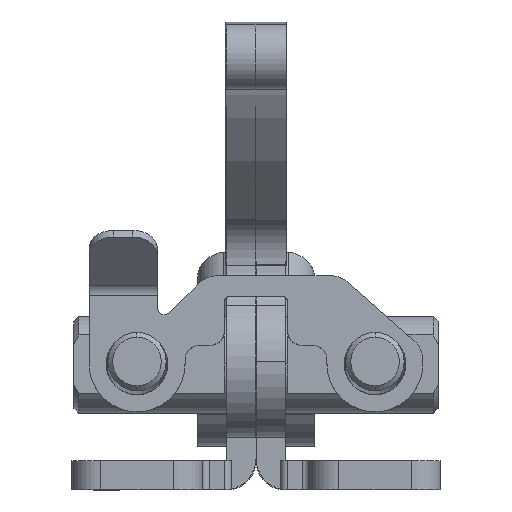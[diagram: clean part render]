
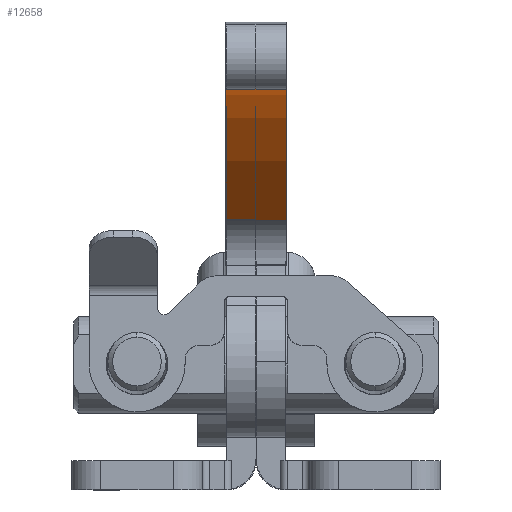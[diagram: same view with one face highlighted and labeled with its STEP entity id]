
A CAD part, left-side view. The second image highlights one B-rep face of the part: STEP entity #12658.
In plain terms, the highlighted cylindrical face has radius 194.8 mm (diameter 389.6 mm), a partial arc.
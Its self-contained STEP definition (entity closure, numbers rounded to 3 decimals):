
#310 = CIRCLE ( 'NONE', #12654, 194.8 ) ;
#1242 = DIRECTION ( 'NONE',  ( 1., 0., 0. ) ) ;
#2239 = CARTESIAN_POINT ( 'NONE',  ( -10.642, 29.331, 5.8 ) ) ;
#2286 = CARTESIAN_POINT ( 'NONE',  ( -102.517, -142.442, 5.8 ) ) ;
#2480 = DIRECTION ( 'NONE',  ( 0., 0., 1. ) ) ;
#2764 = ORIENTED_EDGE ( 'NONE', *, *, #2774, .T. ) ;
#2774 = EDGE_CURVE ( 'NONE', #7983, #4565, #6127, .T. ) ;
#3188 = CYLINDRICAL_SURFACE ( 'NONE', #12068, 194.8 ) ;
#3219 = CARTESIAN_POINT ( 'NONE',  ( -117.002, 51.819, 18.2 ) ) ;
#3492 = DIRECTION ( 'NONE',  ( 0., 0., 1. ) ) ;
#3802 = ORIENTED_EDGE ( 'NONE', *, *, #4916, .F. ) ;
#3804 = CARTESIAN_POINT ( 'NONE',  ( -117.002, 51.819, 5.8 ) ) ;
#3858 = VECTOR ( 'NONE', #7337, 1000. ) ;
#4040 = EDGE_CURVE ( 'NONE', #4565, #7148, #6403, .T. ) ;
#4511 = FACE_OUTER_BOUND ( 'NONE', #11739, .T. ) ;
#4565 = VERTEX_POINT ( 'NONE', #9943 ) ;
#4724 = EDGE_CURVE ( 'NONE', #11874, #7148, #12130, .T. ) ;
#4916 = EDGE_CURVE ( 'NONE', #7983, #11874, #310, .T. ) ;
#6127 = LINE ( 'NONE', #2239, #11876 ) ;
#6403 = CIRCLE ( 'NONE', #13525, 194.8 ) ;
#7148 = VERTEX_POINT ( 'NONE', #3219 ) ;
#7337 = DIRECTION ( 'NONE',  ( 0., 0., 1. ) ) ;
#7614 = DIRECTION ( 'NONE',  ( 0., 0., 1. ) ) ;
#7732 = ORIENTED_EDGE ( 'NONE', *, *, #4040, .T. ) ;
#7902 = ORIENTED_EDGE ( 'NONE', *, *, #4724, .F. ) ;
#7983 = VERTEX_POINT ( 'NONE', #9234 ) ;
#8922 = CARTESIAN_POINT ( 'NONE',  ( -102.517, -142.442, 18.2 ) ) ;
#9234 = CARTESIAN_POINT ( 'NONE',  ( -10.642, 29.331, 5.8 ) ) ;
#9440 = CARTESIAN_POINT ( 'NONE',  ( -117.002, 51.819, 5.8 ) ) ;
#9933 = CARTESIAN_POINT ( 'NONE',  ( -102.517, -142.442, 5.8 ) ) ;
#9943 = CARTESIAN_POINT ( 'NONE',  ( -10.642, 29.331, 18.2 ) ) ;
#10005 = DIRECTION ( 'NONE',  ( 1., 0., 0. ) ) ;
#11033 = DIRECTION ( 'NONE',  ( 1., 0., 0. ) ) ;
#11739 = EDGE_LOOP ( 'NONE', ( #7732, #7902, #3802, #2764 ) ) ;
#11874 = VERTEX_POINT ( 'NONE', #3804 ) ;
#11876 = VECTOR ( 'NONE', #13018, 1000. ) ;
#12068 = AXIS2_PLACEMENT_3D ( 'NONE', #2286, #7614, #1242 ) ;
#12130 = LINE ( 'NONE', #9440, #3858 ) ;
#12654 = AXIS2_PLACEMENT_3D ( 'NONE', #9933, #3492, #11033 ) ;
#12658 = ADVANCED_FACE ( 'NONE', ( #4511 ), #3188, .F. ) ;
#13018 = DIRECTION ( 'NONE',  ( 0., 0., 1. ) ) ;
#13525 = AXIS2_PLACEMENT_3D ( 'NONE', #8922, #2480, #10005 ) ;
